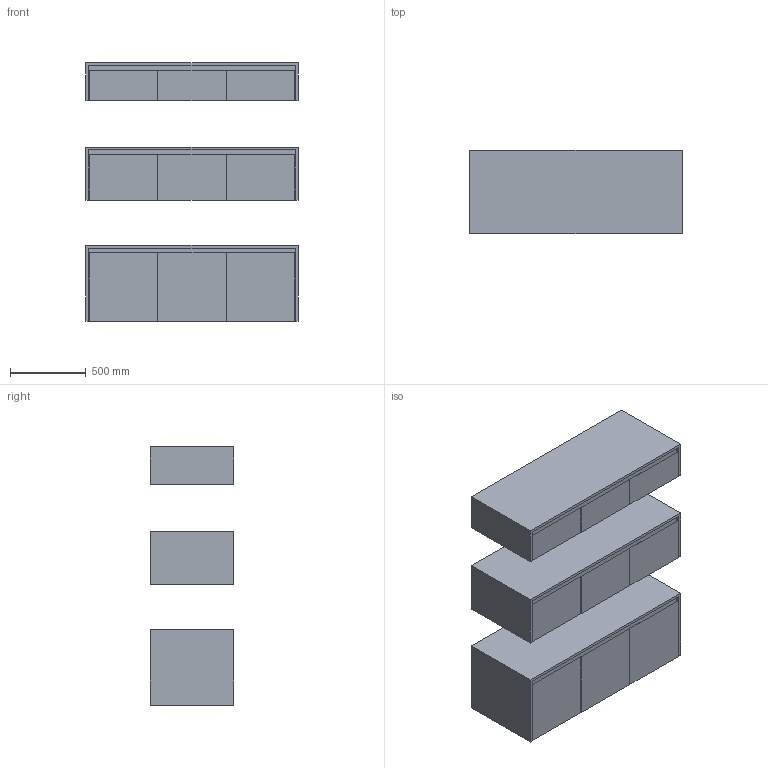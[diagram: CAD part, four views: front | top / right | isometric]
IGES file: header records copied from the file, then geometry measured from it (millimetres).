
Global section: file name: \\Archi-NAS\Comune\X GIOVANNI\MOBILI\SLIMLINE\SLIMLINE_03.igs; native system: Rhinoceros ( Feb 23 2021 ); preprocessor: Trout Lake IGES 012 Feb 23 2021; date: 230607.143824; units: millimetre
Bounding box: 1400 x 550 x 1703.17 mm (x, y, z)
Surface area: 27082814.7 mm2 (no closed solid volume)
Topology: 0 solids, 0 shells, 402 faces, 1704 edges, 1704 vertices
Faces by surface type: bspline 402
